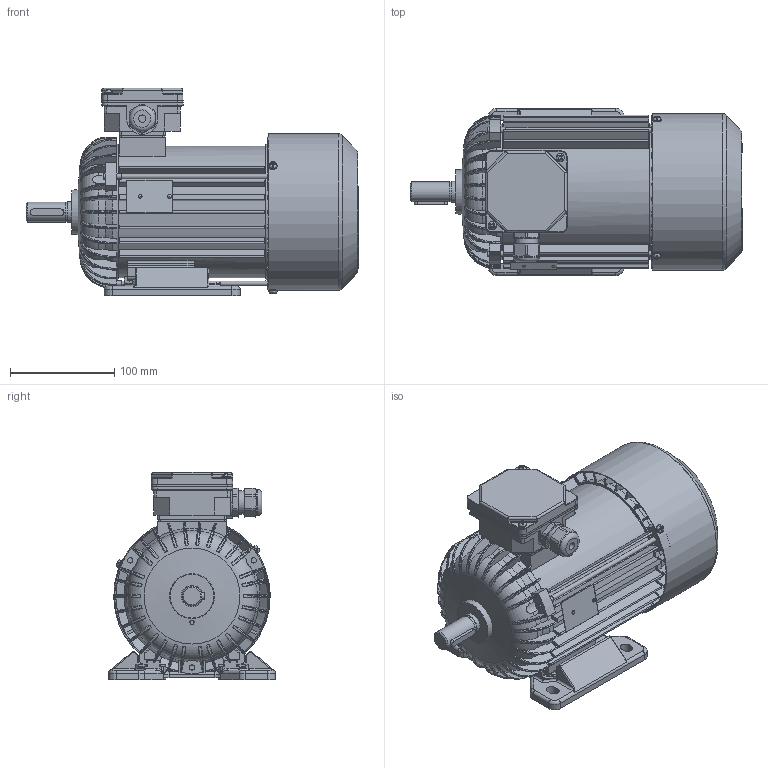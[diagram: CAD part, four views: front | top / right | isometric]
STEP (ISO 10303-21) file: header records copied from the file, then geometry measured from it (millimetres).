
FILE_DESCRIPTION( ( 'Unknown' ), '1' );
FILE_NAME( 'G:/Poczta Tk-1/STP/w.m.80/Sh80/Sh80x-.D.stp', 'Unknown', ( 'K. Szlosek' ), ( 'BESEL S.A.' ), 'PSStep 17.0.49', 'Unknown', ' ' );
FILE_SCHEMA( ( 'AUTOMOTIVE_DESIGN { 1 0 10303 214 1 1 1 1 }' ) );
Length unit declared in the file: millimetre
Products named in the file (30): skrznka zaciskowa trójfazowa ; K4-2820 Uszczelka nr 2 Sh71,80; Dławnica M20x1,5; K2-0859 Podstawa skrzynki 6-cio zaciskowej; K2-0860 Pokrywka skrzynki zaciskowej; Assem1; K1-1257 Kadłub S(E,M)h80-C i D; Wkręt samogwintujący M4x10; K4-2320 Uszczelka nr 1 Sh71,80; Wpust A6x6x32; K2-1715 Przewietrznik; Nitokołek A 2x6; Łożysko 6204; Śruba ściągająca E_M5x168; Tabliczka znamionowa 32x44; K3-6857 Tarcza łożyskowa P S(E,M)h80-B,D; K3-2964 Osłona przewietrznika Sh80,90; K3-5645 wał S(E,M)h80-.D; K1-0437 Łapa Sh80-.. ; K2-2007 Tarcza łożyskowa N S(E,M)h80-; Wkręt samogwintujący M4x16
Assembly tree (45 placements, depth 3):
  Assem1
    K1-1257 Kadłub S(E,M)h80-C i D
    Wkręt samogwintujący M4x10  x3
    K4-2320 Uszczelka nr 1 Sh71,80
    Wpust A6x6x32
    K2-1715 Przewietrznik
    Nitokołek A 2x6  x2
    Łożysko 6204  x2
    Łożysko 6204  x2
    Łożysko 6204  x2
    Łożysko 6204  x2
    Łożysko 6204  x2
    Łożysko 6204  x2
    Łożysko 6204  x2
    Łożysko 6204  x2
    Łożysko 6204  x2
    Łożysko 6204  x2
    Śruba ściągająca E_M5x168  x3
    Tabliczka znamionowa 32x44
    K3-6857 Tarcza łożyskowa P S(E,M)h80-B,D
    K3-2964 Osłona przewietrznika Sh80,90
    K3-5645 wał S(E,M)h80-.D
    K1-0437 Łapa Sh80-.. 
    K2-2007 Tarcza łożyskowa N S(E,M)h80-
    Wkręt samogwintujący M4x16  x2
    skrznka zaciskowa trójfazowa 
      K4-2820 Uszczelka nr 2 Sh71,80
      Dławnica M20x1,5
      K2-0859 Podstawa skrzynki 6-cio zaciskowej
      K2-0860 Pokrywka skrzynki zaciskowej
Bounding box: 317.8 x 160 x 198.5 mm (x, y, z)
Volume: 1018634.6 mm3; surface area: 623736.2 mm2
Topology: 44 solids, 60 shells, 3081 faces, 8463 edges, 5471 vertices
Faces by surface type: plane 1434, cylinder 969, torus 269, cone 198, bspline 173, sphere 38
Full cylindrical faces by diameter (mm): 2 x2, 2.4 x2, 3.7 x11, 4 x7, 4.2 x3, 4.5 x1, 4.6 x3, 4.8 x4, 5 x7, 5.5 x3, 6.5 x4, 7 x1, 8 x9, 18.376 x1, 18.38 x1, 18.6 x1, 19 x1, 19.3 x1, 19.5 x2, 19.6 x2, 19.9 x1, 20 x5, 20.4 x2, 22.3 x1, 25 x1, 25.5 x1, 25.6 x1, 26 x4, 28.802 x4, 34 x2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
Entity records: 175144 total; most frequent: CARTESIAN_POINT 80067, ORIENTED_EDGE 15488, DIRECTION 14554, EDGE_CURVE 7744, AXIS2_PLACEMENT_3D 5409, VERTEX_POINT 5140, LINE 3736, VECTOR 3736
